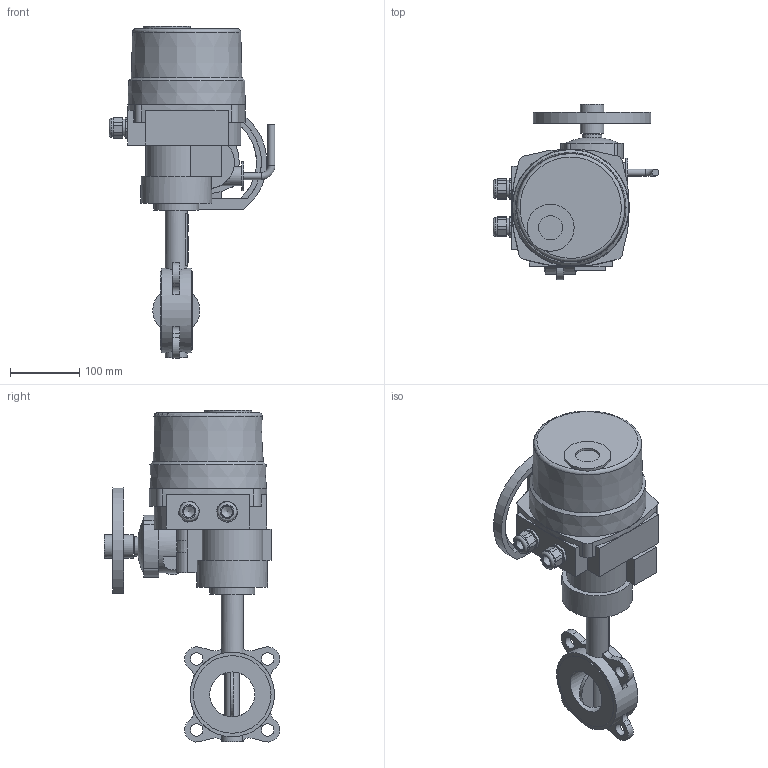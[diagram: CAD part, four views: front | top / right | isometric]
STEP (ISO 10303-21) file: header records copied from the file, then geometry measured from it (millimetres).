
FILE_DESCRIPTION(('STEP AP203'), '1');
FILE_NAME('青蜮铕 015WDN65+菹 QT5-1', '', ('UNSPECIFIED'), ('UNSPECIFIED'), 'ASCON STEP Converter 1.6', 'ASCON Math Kernel', '');
FILE_SCHEMA(('CONFIG_CONTROL_DESIGN'));
Length unit declared in the file: millimetre
Bounding box: 239.5 x 253.7 x 479.7 mm (x, y, z)
Volume: 5072498.8 mm3; surface area: 347393.9 mm2
Topology: 2 solids, 3 shells, 818 faces, 2330 edges, 1498 vertices
Faces by surface type: cylinder 528, plane 275, cone 9, torus 5, bspline 1
Full cylindrical faces by diameter (mm): 4.917 x4, 8 x4, 10 x2, 12.6 x1, 16 x2, 17 x2, 18 x4, 20 x1, 22.835 x2, 25 x2, 28 x3, 28.026 x1, 32 x2, 34 x2, 35 x2, 40 x1, 42 x1, 65 x2, 68 x1, 102 x1, 112 x2, 122 x1
Entity records: 34836 total; most frequent: CARTESIAN_POINT 6195, DIRECTION 4985, ORIENTED_EDGE 4473, EDGE_CURVE 2268, AXIS2_PLACEMENT_3D 1948, VERTEX_POINT 1492, CIRCLE 1130, LINE 1089
